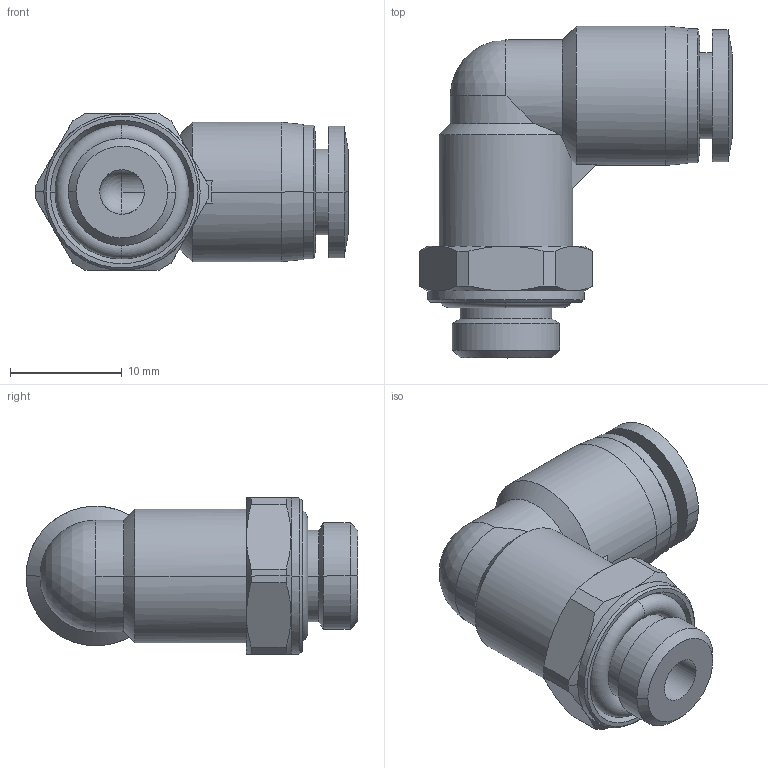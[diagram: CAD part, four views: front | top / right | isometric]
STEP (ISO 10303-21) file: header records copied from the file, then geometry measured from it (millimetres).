
FILE_DESCRIPTION (( 'STEP AP203' ), '1' );
FILE_NAME ('FL06-01.STEP', '2020-04-28T13:41:02', ( '' ), ( '' ), 'SwSTEP 2.0', 'SolidWorks 2019', '' );
FILE_SCHEMA (( 'CONFIG_CONTROL_DESIGN' ));
Length unit declared in the file: millimetre
Products named in the file (1): FL06-01
Bounding box: 28.05 x 29.75 x 14 mm (x, y, z)
Surface area: 2926.7 mm2 (no closed solid volume)
Topology: 0 solids, 4 shells, 93 faces, 223 edges, 138 vertices
Faces by surface type: cylinder 34, cone 32, plane 19, torus 4, bspline 2, sphere 2
Entity records: 4339 total; most frequent: CARTESIAN_POINT 2494, ORIENTED_EDGE 424, DIRECTION 236, EDGE_CURVE 220, B_SPLINE_CURVE_WITH_KNOTS 166, VERTEX_POINT 137, EDGE_LOOP 103, AXIS2_PLACEMENT_3D 96
